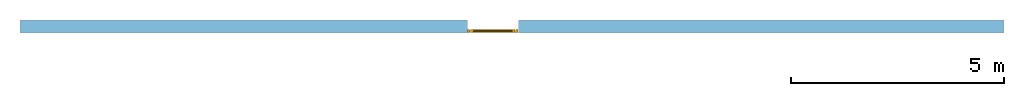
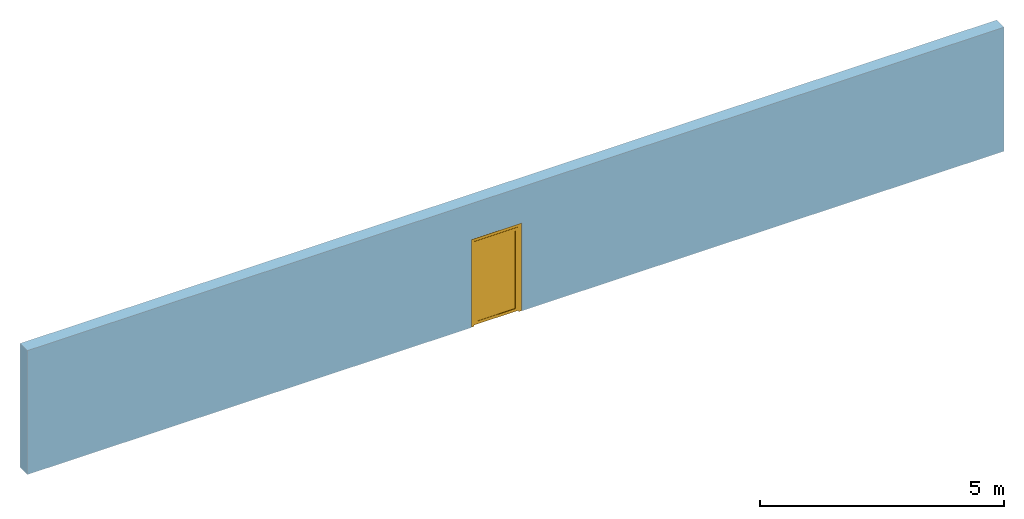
# One storey, part 2 of 2: 1 window, 1 opening, plus 1 element that does not belong to this part.
"""IFC2X3 building model written with IfcOpenShell, lengths in metres."""

from ifc_helpers import new_model, entity, si_unit, converted_unit, derived_unit, direction, frame, frame_2d, origin, place, context, subcontext, project, spatial, rectangle, extrude, faceted_brep, source, transform, mapped, material, material_list, layer, layer_set, layer_usage, type_object, type_shapes, element, fill, save


model = new_model("IFC2X3")

# Units and contexts
model_context = context("Model", 3, precision=1e-05, world=origin(), true_north=direction((6.12303176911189e-17, 1.0)))
body_context = subcontext(model_context, "Body", "Model", "MODEL_VIEW")
ifc_project = project(units=[si_unit("LENGTHUNIT", "METRE"), si_unit("AREAUNIT", "SQUARE_METRE"), si_unit("VOLUMEUNIT", "CUBIC_METRE"), converted_unit("PLANEANGLEUNIT", "DEGREE", entity("IfcRatioMeasure", 0.0174532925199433), si_unit("PLANEANGLEUNIT", "RADIAN"), dimensions=[0, 0, 0, 0, 0, 0, 0]), si_unit("MASSUNIT", "GRAM", prefix="KILO"), derived_unit("MASSDENSITYUNIT", [(si_unit("MASSUNIT", "GRAM", prefix="KILO"), 1), (si_unit("LENGTHUNIT", "METRE"), -3)]), si_unit("TIMEUNIT", "SECOND"), si_unit("FREQUENCYUNIT", "HERTZ"), si_unit("THERMODYNAMICTEMPERATUREUNIT", "DEGREE_CELSIUS"), derived_unit("THERMALTRANSMITTANCEUNIT", [(si_unit("MASSUNIT", "GRAM", prefix="KILO"), 1), (si_unit("THERMODYNAMICTEMPERATUREUNIT", "KELVIN"), -1), (si_unit("TIMEUNIT", "SECOND"), -3)]), derived_unit("VOLUMETRICFLOWRATEUNIT", [(si_unit("LENGTHUNIT", "METRE"), 3), (si_unit("TIMEUNIT", "SECOND"), -1)]), si_unit("ELECTRICCURRENTUNIT", "AMPERE"), si_unit("ELECTRICVOLTAGEUNIT", "VOLT"), si_unit("POWERUNIT", "WATT"), si_unit("FORCEUNIT", "NEWTON", prefix="KILO"), si_unit("ILLUMINANCEUNIT", "LUX"), si_unit("LUMINOUSFLUXUNIT", "LUMEN"), si_unit("LUMINOUSINTENSITYUNIT", "CANDELA"), derived_unit("USERDEFINED", [(si_unit("MASSUNIT", "GRAM", prefix="KILO"), -1), (si_unit("LENGTHUNIT", "METRE"), -2), (si_unit("TIMEUNIT", "SECOND"), 3), (si_unit("LUMINOUSFLUXUNIT", "LUMEN"), 1)]), derived_unit("LINEARVELOCITYUNIT", [(si_unit("LENGTHUNIT", "METRE"), 1), (si_unit("TIMEUNIT", "SECOND"), -1)]), si_unit("PRESSUREUNIT", "PASCAL"), derived_unit("USERDEFINED", [(si_unit("LENGTHUNIT", "METRE"), -2), (si_unit("MASSUNIT", "GRAM", prefix="KILO"), 1), (si_unit("TIMEUNIT", "SECOND"), -2)])], contexts=[model_context])

# Site, building, storey
site_placement = place(None, origin())
site = spatial("IfcSite", under=ifc_project, at=site_placement, Name="Default", CompositionType="ELEMENT")
building_placement = place(site_placement, origin())
building = spatial("IfcBuilding", under=site, at=building_placement, CompositionType="ELEMENT")
storey_placement = place(building_placement, origin())
storey = spatial("IfcBuildingStorey", under=building, at=storey_placement, Name="0 - Piano Terra", CompositionType="ELEMENT", Elevation=0.0)

# Wall, opening, window
ifc_material_1 = material(Name="Default - Muro")
ifc_layer = layer(ifc_material_1, 0.3)
ifc_layer_set = layer_set([ifc_layer], Name="Muro di base:Generico - 30 cm")
ifc_layer_usage = layer_usage(ifc_layer_set, "AXIS2", "NEGATIVE", 0.15)
wall_type = type_object("IfcWallType", Name="Muro di base:Generico - 30 cm", PredefinedType="STANDARD", material=ifc_layer_set)
wall_placement = place(storey_placement, frame((-13.6096750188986, -0.858885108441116, 0.0)))
wall = element("IfcWallStandardCase", 1, at=wall_placement, inside=storey, type_object=wall_type, material=ifc_layer_usage, Name="Muro di base:Generico - 30 cm", ObjectType="Muro di base:Generico - 30 cm:952", context=body_context, shape_type="SweptSolid", body=[
    extrude(rectangle(XDim=23.1, YDim=0.3, at=frame_2d((11.55, 2.77555756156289e-17), x_axis=(-1.0, 0.0))), origin(), (0.0, 0.0, 1.0), 3.1),
])
opening_placement = place(wall_placement, frame((11.7, 0.149999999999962, 0.0)))
opening = element("IfcOpeningElement", 2, at=opening_placement, cuts=wall, Name="BIM_AluK_D77_1 anta:BIM_AluK_D77_1 anta:1", ObjectType="Opening", context=body_context, shape_type="SweptSolid", body=[
    extrude(rectangle(XDim=2.19999999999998, YDim=1.2, at=frame_2d((1.09999999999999, 0.6), x_axis=(1.0, 0.0))), frame((0.0, 0.0, 0.0), z_axis=(0.0, -1.0, 0.0), x_axis=(0.0, 0.0, 1.0)), (0.0, 0.0, 1.0), 0.3),
])
ifc_material_2 = material(Name="Aluk (IT)")
ifc_material_3 = material(Name="Vetro")
ifc_material_list_1 = material_list([ifc_material_2, ifc_material_3])
ifc_material_list_2 = material_list([ifc_material_2, ifc_material_3])
window_style = type_object("IfcWindowStyle", Name="BIM_AluK_D77_1 anta", ConstructionType="NOTDEFINED", OperationType="NOTDEFINED", ParameterTakesPrecedence=False, Sizeable=False, material=ifc_material_list_2)
shared_shape = source(origin(), body_context, "Body", "Brep", [
    faceted_brep([(1.12450000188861, 0.281250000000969, 0.0264500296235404), (1.12450000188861, 0.227499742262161, 0.0264500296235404), (0.0754999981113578, 0.227499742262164, 0.0264500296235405), (0.0754999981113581, 0.281250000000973, 0.0264500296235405), (0.0754999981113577, 0.227499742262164, 2.1245000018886), (0.0754999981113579, 0.281250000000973, 2.1245000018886), (1.12450000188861, 0.227499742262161, 2.1245000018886), (0.0569999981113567, 0.227499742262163, 2.1430000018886), (1.14300000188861, 0.22749974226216, 2.1430000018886), (1.14300000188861, 0.227499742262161, 0.00795002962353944), (0.0569999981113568, 0.227499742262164, 0.00795002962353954), (0.0819999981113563, 0.281250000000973, 0.032950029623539), (1.11800000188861, 0.281250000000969, 0.0329500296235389), (1.11800000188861, 0.281250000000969, 2.1180000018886), (0.0819999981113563, 0.281250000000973, 2.1180000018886), (1.12450000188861, 0.281250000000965, 2.1245000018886), (1.11800000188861, 0.290000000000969, 0.0329500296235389), (0.0819999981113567, 0.290000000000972, 0.032950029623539), (0.0819999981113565, 0.290000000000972, 2.1180000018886), (0.15299999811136, 0.290000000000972, 0.103950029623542), (1.0470000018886, 0.290000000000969, 0.103950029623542), (1.0470000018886, 0.290000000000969, 2.0470000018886), (0.152999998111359, 0.290000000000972, 2.0470000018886), (1.11800000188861, 0.290000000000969, 2.1180000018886), (1.0470000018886, 0.282000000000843, 0.103950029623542), (0.15299999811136, 0.282000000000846, 0.103950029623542), (0.15299999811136, 0.282000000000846, 2.0470000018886), (0.138999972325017, 0.282000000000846, 0.0899500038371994), (1.06100002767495, 0.282000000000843, 0.0899500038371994), (1.06100002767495, 0.282000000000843, 2.06100002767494), (0.138999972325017, 0.282000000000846, 2.06100002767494), (1.0470000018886, 0.282000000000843, 2.0470000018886), (1.06100002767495, 0.250480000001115, 0.0899500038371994), (0.138999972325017, 0.250480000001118, 0.0899500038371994), (0.138999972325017, 0.250480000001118, 2.06100002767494), (0.152998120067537, 0.250480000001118, 0.10394815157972), (1.04700187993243, 0.250480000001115, 0.10394815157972), (1.04700187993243, 0.250480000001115, 2.04700187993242), (0.152998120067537, 0.250480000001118, 2.04700187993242), (1.06100002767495, 0.250480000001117, 2.06100002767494), (1.04700187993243, 0.222999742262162, 0.10394815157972), (0.152998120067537, 0.222999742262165, 0.10394815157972), (0.152998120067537, 0.222999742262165, 2.04700187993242), (0.0569999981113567, 0.222999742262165, 0.00795002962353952), (1.14300000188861, 0.222999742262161, 0.00795002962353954), (1.14300000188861, 0.222999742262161, 2.1430000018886), (0.0569999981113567, 0.222999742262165, 2.1430000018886), (1.04700187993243, 0.222999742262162, 2.04700187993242)], [[[0, 1, 2, 3]], [[3, 2, 4, 5]], [[2, 1, 6, 4], [7, 8, 9, 10]], [[11, 12, 13, 14], [5, 15, 0, 3]], [[16, 12, 11, 17]], [[17, 11, 14, 18]], [[19, 20, 21, 22], [18, 23, 16, 17]], [[24, 20, 19, 25]], [[25, 19, 22, 26]], [[27, 28, 29, 30], [26, 31, 24, 25]], [[32, 28, 27, 33]], [[33, 27, 30, 34]], [[35, 36, 37, 38], [34, 39, 32, 33]], [[40, 36, 35, 41]], [[41, 35, 38, 42]], [[43, 44, 45, 46], [42, 47, 40, 41]], [[9, 44, 43, 10]], [[10, 43, 46, 7]], [[15, 6, 1, 0]], [[23, 13, 12, 16]], [[31, 21, 20, 24]], [[39, 29, 28, 32]], [[47, 37, 36, 40]], [[8, 45, 44, 9]], [[5, 4, 6, 15]], [[18, 14, 13, 23]], [[26, 22, 21, 31]], [[34, 30, 29, 39]], [[42, 38, 37, 47]], [[7, 46, 45, 8]]], outer=[[True], [True], [False, True], [False, True], [True], [True], [False, True], [True], [True], [True, False], [True], [True], [False, True], [True], [True], [True, False], [True], [True], [True], [True], [True], [True], [True], [True], [True], [True], [True], [True], [True], [True]]),
    faceted_brep([(1.12399827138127, 0.290000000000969, 0.0), (1.18999999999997, 0.290000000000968, 0.0), (1.18999999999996, 0.223000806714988, 0.0), (1.14899999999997, 0.223000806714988, 0.0), (1.14899999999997, 0.231750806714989, 0.0), (1.13799999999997, 0.231750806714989, 0.0), (1.13799999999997, 0.288301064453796, 0.0), (1.13399827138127, 0.288301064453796, 0.0), (1.13399827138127, 0.285501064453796, 0.0), (1.12399827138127, 0.285501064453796, 0.0), (1.12399827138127, 0.290000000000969, 2.12399827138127), (0.0760017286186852, 0.290000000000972, 2.12399827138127), (0.0760017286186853, 0.290000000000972, 0.0), (0.009999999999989, 0.290000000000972, 0.0), (0.00999999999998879, 0.290000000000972, 2.18999999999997), (1.18999999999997, 0.290000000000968, 2.18999999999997), (1.18999999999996, 0.223000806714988, 2.18999999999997), (0.00999999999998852, 0.223000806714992, 2.18999999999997), (0.00999999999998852, 0.223000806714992, 0.0), (0.0509999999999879, 0.223000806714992, 0.0), (0.0509999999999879, 0.223000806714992, 2.14899999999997), (1.14899999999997, 0.223000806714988, 2.14899999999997), (1.14899999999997, 0.231750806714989, 2.14899999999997), (0.0509999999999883, 0.231750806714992, 2.14899999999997), (0.0509999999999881, 0.231750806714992, 0.0), (0.0619999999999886, 0.231750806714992, 0.0), (0.0619999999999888, 0.231750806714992, 2.13799999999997), (1.13799999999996, 0.231750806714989, 2.13799999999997), (1.13799999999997, 0.288301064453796, 2.13799999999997), (0.0619999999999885, 0.2883010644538, 2.13799999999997), (0.0619999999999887, 0.2883010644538, 0.0), (0.0660017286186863, 0.2883010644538, 0.0), (0.0660017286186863, 0.288301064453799, 2.13399827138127), (1.13399827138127, 0.288301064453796, 2.13399827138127), (1.13399827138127, 0.285501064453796, 2.13399827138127), (0.0660017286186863, 0.2855010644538, 2.13399827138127), (0.0660017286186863, 0.2855010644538, 0.0), (0.0760017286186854, 0.2855010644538, 0.0), (0.0760017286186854, 0.285501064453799, 2.12399827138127), (1.12399827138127, 0.285501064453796, 2.12399827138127)], [[[0, 1, 2, 3, 4, 5, 6, 7, 8, 9]], [[1, 0, 10, 11, 12, 13, 14, 15]], [[2, 1, 15, 16]], [[3, 2, 16, 17, 18, 19, 20, 21]], [[4, 3, 21, 22]], [[5, 4, 22, 23, 24, 25, 26, 27]], [[6, 5, 27, 28]], [[7, 6, 28, 29, 30, 31, 32, 33]], [[8, 7, 33, 34]], [[9, 8, 34, 35, 36, 37, 38, 39]], [[0, 9, 39, 10]], [[17, 14, 13, 18]], [[12, 37, 36, 31, 30, 25, 24, 19, 18, 13]], [[23, 20, 19, 24]], [[29, 26, 25, 30]], [[35, 32, 31, 36]], [[11, 38, 37, 12]], [[16, 15, 14, 17]], [[22, 21, 20, 23]], [[28, 27, 26, 29]], [[34, 33, 32, 35]], [[10, 39, 38, 11]]]),
    faceted_brep([(0.138999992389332, 0.257240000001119, 0.0899500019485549), (1.06100000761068, 0.257240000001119, 0.0899500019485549), (1.06100000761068, 0.25048000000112, 0.0899500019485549), (0.138999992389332, 0.25048000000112, 0.0899500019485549), (0.138999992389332, 0.257240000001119, 2.06100000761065), (1.06100000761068, 0.257240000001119, 2.06100000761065), (1.06100000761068, 0.25048000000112, 2.06100000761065), (0.138999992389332, 0.25048000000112, 2.06100000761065)], [[[0, 1, 2, 3]], [[4, 5, 1, 0]], [[5, 6, 2, 1]], [[6, 7, 3, 2]], [[7, 4, 0, 3]], [[4, 7, 6, 5]]]),
    faceted_brep([(1.06100000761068, 0.282000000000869, 2.06100000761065), (1.06100000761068, 0.27324000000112, 2.06100000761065), (1.06100000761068, 0.27324000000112, 0.0899500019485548), (1.06100000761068, 0.282000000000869, 0.0899500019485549), (0.13899999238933, 0.27324000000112, 2.06100000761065), (0.13899999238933, 0.27324000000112, 0.0899500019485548), (0.13899999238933, 0.282000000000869, 2.06100000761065), (0.13899999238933, 0.282000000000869, 0.0899500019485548)], [[[0, 1, 2, 3]], [[1, 4, 5, 2]], [[4, 6, 7, 5]], [[6, 0, 3, 7]], [[0, 6, 4, 1]], [[3, 2, 5, 7]]]),
])
type_shapes(window_style, [shared_shape])
window_placement = place(opening_placement, frame((0.0, 0.0, 0.0), z_axis=(0.0, 0.0, 1.0), x_axis=(-1.0, 0.0, 0.0)))
window = element("IfcWindow", 3, at=window_placement, inside=storey, type_object=window_style, material=ifc_material_list_1, Name="BIM_AluK_D77_1 anta:BIM_AluK_D77_1 anta", ObjectType="BIM_AluK_D77_1 anta", OverallHeight=2.19999999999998, OverallWidth=1.2, context=body_context, shape_type="MappedRepresentation", body=[
    mapped(shared_shape, transform((0.0, 0.0, 0.0), scale=1.0)),
])
fill(opening, window)

save(model, "model.ifc")
